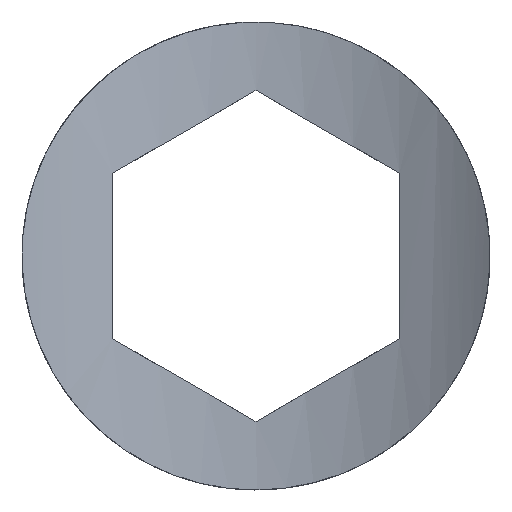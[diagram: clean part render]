
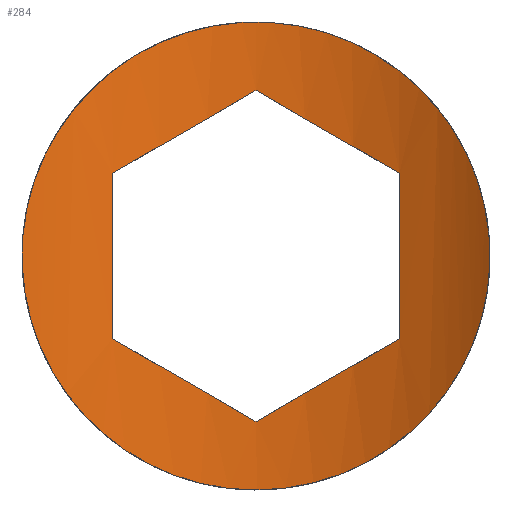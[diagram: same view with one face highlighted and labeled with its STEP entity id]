
A CAD part, front view. The second image highlights one B-rep face of the part: STEP entity #284.
In plain terms, the highlighted cylindrical face has radius 2.5 mm (diameter 5 mm), a partial arc.
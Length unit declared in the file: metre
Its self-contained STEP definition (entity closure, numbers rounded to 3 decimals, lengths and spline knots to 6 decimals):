
#27=LINE('',#488,#41);
#28=LINE('',#491,#42);
#41=VECTOR('',#357,1.);
#42=VECTOR('',#360,1.);
#55=ELLIPSE('',#317,0.002887,0.0025);
#56=ELLIPSE('',#319,0.002887,0.0025);
#57=ELLIPSE('',#320,0.002887,0.0025);
#58=ELLIPSE('',#321,0.002887,0.0025);
#79=ORIENTED_EDGE('',*,*,#164,.F.);
#80=ORIENTED_EDGE('',*,*,#165,.F.);
#81=ORIENTED_EDGE('',*,*,#166,.F.);
#82=ORIENTED_EDGE('',*,*,#162,.F.);
#83=ORIENTED_EDGE('',*,*,#167,.F.);
#84=ORIENTED_EDGE('',*,*,#168,.F.);
#85=ORIENTED_EDGE('',*,*,#169,.F.);
#162=EDGE_CURVE('',#204,#205,#55,.T.);
#164=EDGE_CURVE('',#206,#206,#228,.T.);
#165=EDGE_CURVE('',#207,#208,#56,.T.);
#166=EDGE_CURVE('',#205,#207,#27,.T.);
#167=EDGE_CURVE('',#209,#204,#57,.T.);
#168=EDGE_CURVE('',#210,#209,#28,.T.);
#169=EDGE_CURVE('',#208,#210,#58,.T.);
#204=VERTEX_POINT('',#460);
#205=VERTEX_POINT('',#462);
#206=VERTEX_POINT('',#484);
#207=VERTEX_POINT('',#486);
#208=VERTEX_POINT('',#487);
#209=VERTEX_POINT('',#490);
#210=VERTEX_POINT('',#492);
#228=B_SPLINE_CURVE_WITH_KNOTS('',3,(#465,#466,#467,#468,#469,#470,#471,
#472,#473,#474,#475,#476,#477,#478,#479,#480,#481,#482,#483),
 .UNSPECIFIED.,.T.,.F.,(1,1,1,1,1,1,1,1,1,1,1,1,1,1,1,1,1,1,1,1,1,1,1),
(-0.001866,-0.001244,-0.000622,0.,0.000622,
0.001244,0.001866,0.002487,0.003109,
0.003731,0.004353,0.004975,0.005597,
0.006219,0.00684,0.007462,0.008084,
0.008706,0.009328,0.00995,0.010572,
0.011194,0.011815),.UNSPECIFIED.);
#242=EDGE_LOOP('',(#79));
#243=EDGE_LOOP('',(#80,#81,#82,#83,#84,#85));
#261=FACE_BOUND('',#242,.T.);
#262=FACE_BOUND('',#243,.T.);
#278=CYLINDRICAL_SURFACE('',#318,0.0025);
#284=ADVANCED_FACE('',(#261,#262),#278,.F.);
#317=AXIS2_PLACEMENT_3D('',#461,#350,#351);
#318=AXIS2_PLACEMENT_3D('',#464,#353,#354);
#319=AXIS2_PLACEMENT_3D('',#485,#355,#356);
#320=AXIS2_PLACEMENT_3D('',#489,#358,#359);
#321=AXIS2_PLACEMENT_3D('',#493,#361,#362);
#350=DIRECTION('',(-0.5,0.,0.866));
#351=DIRECTION('',(-0.866,0.,-0.5));
#353=DIRECTION('',(0.,0.,-1.));
#354=DIRECTION('',(0.,-1.,0.));
#355=DIRECTION('',(-0.5,0.,-0.866));
#356=DIRECTION('',(0.866,0.,-0.5));
#357=DIRECTION('',(0.,0.,-1.));
#358=DIRECTION('',(0.5,0.,0.866));
#359=DIRECTION('',(-0.866,0.,0.5));
#360=DIRECTION('',(0.,0.,1.));
#361=DIRECTION('',(0.5,0.,-0.866));
#362=DIRECTION('',(0.866,0.,0.5));
#460=CARTESIAN_POINT('',(-0.040677,-0.040352,0.204015));
#461=CARTESIAN_POINT('',(-0.040677,-0.042852,0.204015));
#462=CARTESIAN_POINT('',(-0.041627,-0.040539,0.203466));
#464=CARTESIAN_POINT('',(-0.040677,-0.042852,0.206733));
#465=CARTESIAN_POINT('',(-0.041212,-0.040385,0.204417));
#466=CARTESIAN_POINT('',(-0.040575,-0.040326,0.204508));
#467=CARTESIAN_POINT('',(-0.039965,-0.040432,0.204339));
#468=CARTESIAN_POINT('',(-0.039489,-0.040636,0.20397));
#469=CARTESIAN_POINT('',(-0.039181,-0.040844,0.203457));
#470=CARTESIAN_POINT('',(-0.039086,-0.040924,0.202821));
#471=CARTESIAN_POINT('',(-0.039253,-0.040788,0.202212));
#472=CARTESIAN_POINT('',(-0.039616,-0.04057,0.201737));
#473=CARTESIAN_POINT('',(-0.040136,-0.040386,0.201421));
#474=CARTESIAN_POINT('',(-0.040774,-0.040326,0.201327));
#475=CARTESIAN_POINT('',(-0.041385,-0.040431,0.201494));
#476=CARTESIAN_POINT('',(-0.041863,-0.040635,0.201864));
#477=CARTESIAN_POINT('',(-0.042173,-0.040844,0.202378));
#478=CARTESIAN_POINT('',(-0.042268,-0.040924,0.203016));
#479=CARTESIAN_POINT('',(-0.0421,-0.040788,0.203625));
#480=CARTESIAN_POINT('',(-0.041735,-0.040569,0.204101));
#481=CARTESIAN_POINT('',(-0.041212,-0.040385,0.204417));
#482=CARTESIAN_POINT('',(-0.040575,-0.040326,0.204508));
#483=CARTESIAN_POINT('',(-0.039965,-0.040432,0.204339));
#484=CARTESIAN_POINT('',(-0.04058,-0.040353,0.204465));
#485=CARTESIAN_POINT('',(-0.040677,-0.042852,0.201821));
#486=CARTESIAN_POINT('',(-0.041627,-0.040539,0.202369));
#487=CARTESIAN_POINT('',(-0.040677,-0.040352,0.201821));
#488=CARTESIAN_POINT('',(-0.041627,-0.040539,0.206733));
#489=CARTESIAN_POINT('',(-0.040677,-0.042852,0.204015));
#490=CARTESIAN_POINT('',(-0.039727,-0.040539,0.203466));
#491=CARTESIAN_POINT('',(-0.039727,-0.040539,0.206733));
#492=CARTESIAN_POINT('',(-0.039727,-0.040539,0.202369));
#493=CARTESIAN_POINT('',(-0.040677,-0.042852,0.201821));
